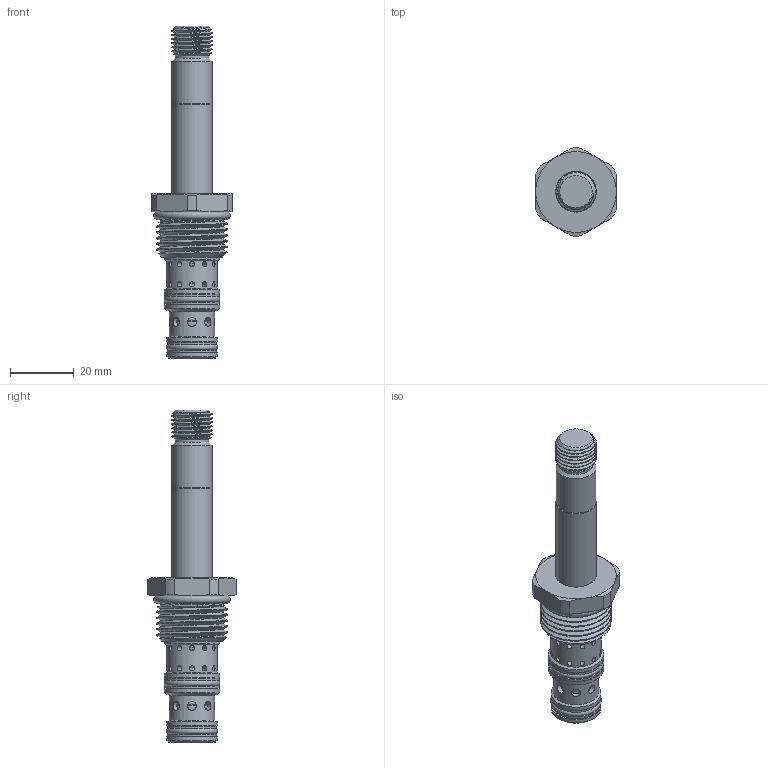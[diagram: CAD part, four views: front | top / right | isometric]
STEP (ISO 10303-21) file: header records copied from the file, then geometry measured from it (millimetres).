
FILE_DESCRIPTION(/* description */ (''),/* implementation_level */ '2;1');
FILE_NAME(/* name */ 'U:\DFS3H00-3D Full.stp',/* time_stamp */ '2023-12-18T14:49:25-06:00',/* author */ ('jared'),/* organization */ (''),/* preprocessor_version */ 'ST-DEVELOPER v17',/* originating_system */ 'Autodesk Inventor 2019',/* authorisation */ '');
FILE_SCHEMA (('AUTOMOTIVE_DESIGN { 1 0 10303 214 3 1 1 }'));
Length unit declared in the file: inch
Products named in the file (1): DFS3H-3D FULL
Bounding box: 25.4 x 27.74 x 104.43 mm (x, y, z)
Volume: 19399.5 mm3; surface area: 10758.4 mm2
Topology: 3 solids, 3 shells, 176 faces, 476 edges, 324 vertices
Faces by surface type: cylinder 87, plane 41, cone 26, bspline 12, torus 10
Full cylindrical faces by diameter (mm): 1.6 x24, 2.794 x8, 8.763 x2, 10.084 x3, 10.668 x1, 10.998 x1, 11.1 x5, 11.11 x1, 12.586 x1, 12.675 x1, 12.7 x5, 12.992 x4, 14.275 x1, 14.592 x2, 14.605 x2, 15.392 x2, 15.773 x2, 15.875 x1, 17.302 x2, 17.323 x1, 17.374 x2, 19.621 x2, 22.225 x4
Entity records: 14115 total; most frequent: CARTESIAN_POINT 9454, ORIENTED_EDGE 952, DIRECTION 846, EDGE_CURVE 476, AXIS2_PLACEMENT_3D 367, VERTEX_POINT 324, EDGE_LOOP 267, CIRCLE 202
